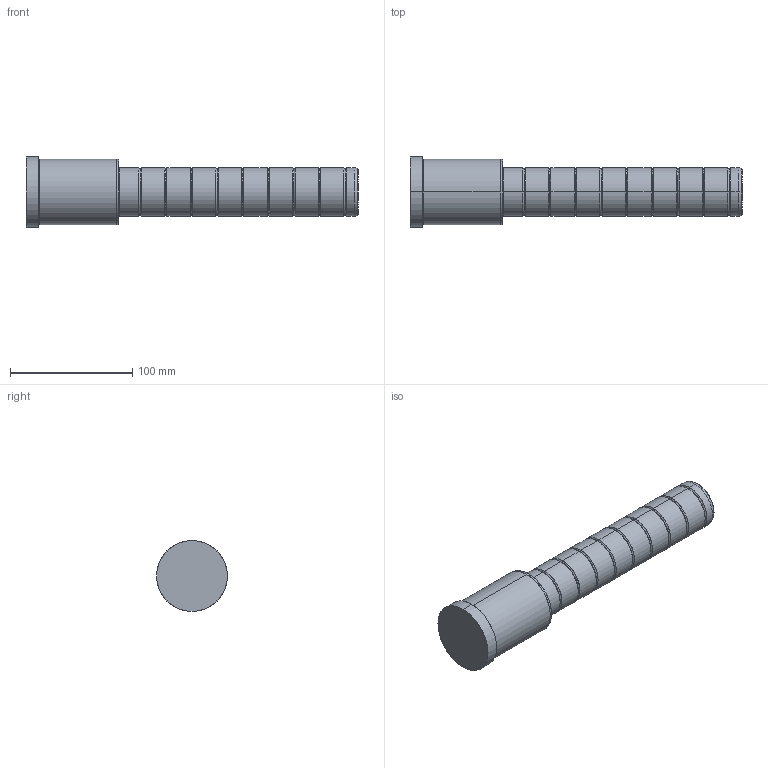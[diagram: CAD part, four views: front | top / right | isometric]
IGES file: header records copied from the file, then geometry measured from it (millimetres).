
Start section: SolidWorks IGES file using analytic representation for surfaces
Global section: file name: C:\Documents and Settings\kalite-mail\Desktop\IGS\D02\40\D02 - 40x76x196.IGS; native system: SolidWorks 2008; preprocessor: SolidWorks 2008; author: kalite-mail; date: 080617.101106; units: millimetre
Bounding box: 272 x 58 x 58 mm (x, y, z)
Surface area: 43920.5 mm2 (no closed solid volume)
Topology: 0 solids, 0 shells, 78 faces, 928 edges, 928 vertices
Faces by surface type: bspline 46, revolution 32
